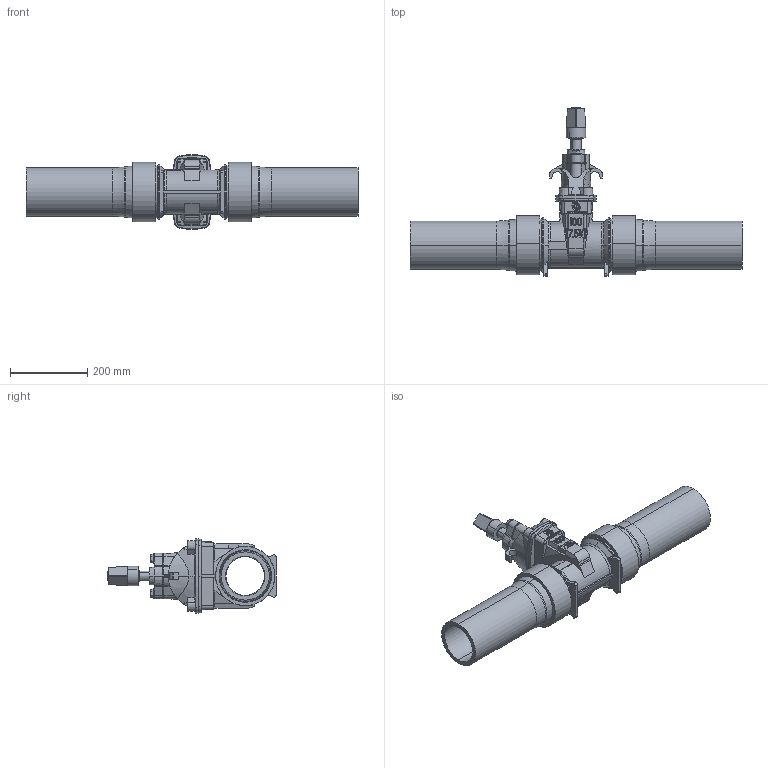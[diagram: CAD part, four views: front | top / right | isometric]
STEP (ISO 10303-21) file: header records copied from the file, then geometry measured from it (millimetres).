
FILE_DESCRIPTION (( 'STEP AP203' ), '1' );
FILE_NAME ('Y04L02101(100).STEP', '2025-02-27T02:40:56', ( '' ), ( '' ), 'SwSTEP 2.0', 'SolidWorks 2019', '' );
FILE_SCHEMA (( 'CONFIG_CONTROL_DESIGN' ));
Length unit declared in the file: millimetre
Products named in the file (1): Y04L02101(100)
Bounding box: 860 x 435.74 x 193.1 mm (x, y, z)
Volume: 6550891.3 mm3; surface area: 815516.3 mm2
Topology: 1 solids, 1 shells, 651 faces, 1684 edges, 1077 vertices
Faces by surface type: plane 321, cone 122, cylinder 109, torus 59, bspline 36, sphere 4
Entity records: 23610 total; most frequent: CARTESIAN_POINT 7989, ORIENTED_EDGE 3360, DIRECTION 3096, EDGE_CURVE 1680, AXIS2_PLACEMENT_3D 1086, VERTEX_POINT 1077, LINE 924, VECTOR 924
